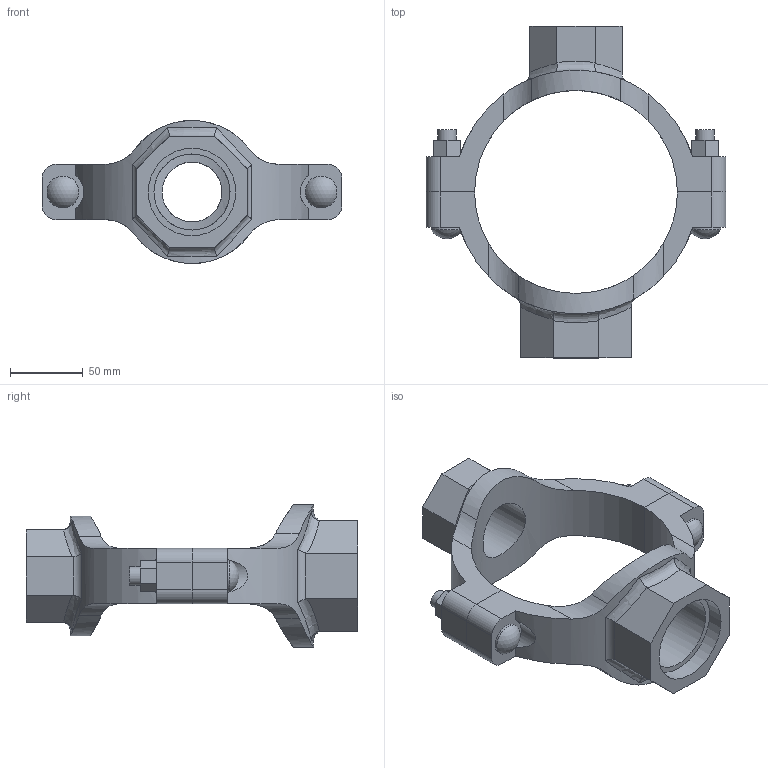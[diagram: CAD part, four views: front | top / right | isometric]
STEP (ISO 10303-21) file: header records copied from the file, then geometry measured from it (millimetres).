
FILE_DESCRIPTION(/* description */ ('VIC MECH-T BRANCH OUTLET CROSS STYLE 920N (THD)','CAx-IF Rec.Pracs.---Representation and Presentation of Product Manufacturing Information (PMI)---4.0---2014-10-13'),/* implementation_level */ '2;1');
FILE_NAME(/* name */ 'C:\Users\Vjadhav\AppData\Roaming\Autodesk\ApplicationPlugins\Back Up\Victaulic_IPS_Mechanical-Cross Outlet_Style 920N (FPT)\Victaulic_IPS_Mechanical-Cross Outlet_05.0 (139.7)x01.5x02.0 (125x40x50).stp',/* time_stamp */ '2020-08-06T18:58:54+05:00',/* author */ ('Vjadhav'),/* organization */ ('Victaulic'),/* preprocessor_version */ 'ST-DEVELOPER v17.2',/* originating_system */ 'Autodesk Inventor 2019',/* authorisation */ '');
FILE_SCHEMA (('AP242_MANAGED_MODEL_BASED_3D_ENGINEERING_MIM_LF { 1 0 10303 442 1 1 4 }'));
Length unit declared in the file: inch
Products named in the file (3): 920NT-05.0 (139.7)x01.5x02.0; 920NT-05.0 (139.7)x01.5; 920NT-05.0 (139.7)x02.0
Assembly tree (2 placements, depth 2):
  920NT-05.0 (139.7)x01.5x02.0
    920NT-05.0 (139.7)x01.5
    920NT-05.0 (139.7)x02.0
Bounding box: 206.5 x 228.6 x 98.54 mm (x, y, z)
Volume: 519636.3 mm3; surface area: 110830.1 mm2
Topology: 2 solids, 2 shells, 132 faces, 350 edges, 236 vertices
Faces by surface type: plane 68, cylinder 50, bspline 8, torus 4, sphere 2
Full cylindrical faces by diameter (mm): 12.7 x4, 21.982 x2, 41.275 x1, 48.26 x1, 52.387 x1, 60.325 x1
Entity records: 5364 total; most frequent: CARTESIAN_POINT 1851, ORIENTED_EDGE 700, DIRECTION 648, EDGE_CURVE 350, VERTEX_POINT 236, AXIS2_PLACEMENT_3D 231, LINE 186, VECTOR 186
